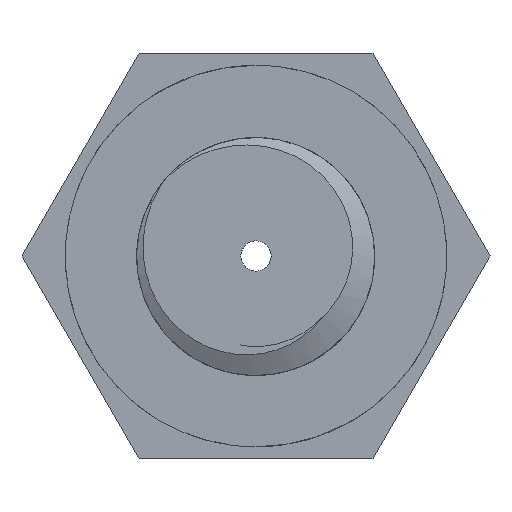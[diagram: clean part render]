
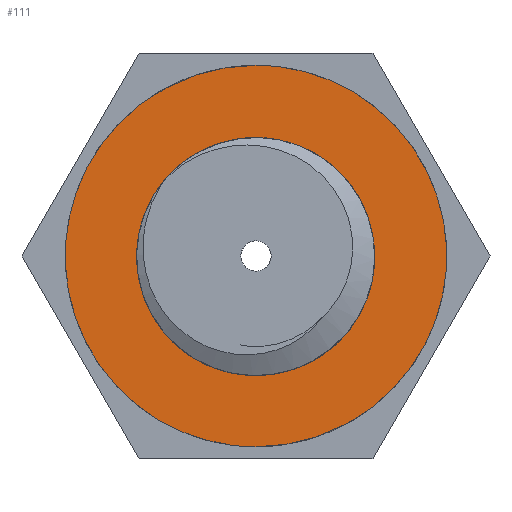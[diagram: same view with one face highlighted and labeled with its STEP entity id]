
A CAD part, front view. The second image highlights one B-rep face of the part: STEP entity #111.
In plain terms, the highlighted free-form (B-spline) face has degree [1, 1] with [2, 2] control points.
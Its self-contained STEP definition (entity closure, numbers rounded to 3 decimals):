
#111=ADVANCED_FACE('',(#161,#153),#591,.T.);
#153=FACE_BOUND('',#205,.T.);
#161=FACE_OUTER_BOUND('',#204,.T.);
#204=EDGE_LOOP('',(#255,#256));
#205=EDGE_LOOP('',(#257,#258));
#255=ORIENTED_EDGE('',*,*,#429,.T.);
#256=ORIENTED_EDGE('',*,*,#488,.T.);
#257=ORIENTED_EDGE('',*,*,#436,.T.);
#258=ORIENTED_EDGE('',*,*,#437,.T.);
#429=EDGE_CURVE('',#516,#550,#3464,.T.);
#436=EDGE_CURVE('',#519,#520,#616,.T.);
#437=EDGE_CURVE('',#520,#519,#617,.T.);
#488=EDGE_CURVE('',#550,#516,#3478,.T.);
#516=VERTEX_POINT('',#3404);
#519=VERTEX_POINT('',#3407);
#520=VERTEX_POINT('',#3408);
#550=VERTEX_POINT('',#3438);
#591=B_SPLINE_SURFACE_WITH_KNOTS('',1,1,((#1607,#1608),(#1609,#1610)),.UNSPECIFIED.,
.F.,.F.,.F.,(2,2),(2,2),(-9.,9.),(0.,18.),.UNSPECIFIED.);
#616=B_SPLINE_CURVE_WITH_KNOTS('',3,(#1014,#1015,#1016,#1017,#1018,#1019,
#1020,#1021,#1022,#1023,#1024,#1025,#1026,#1027,#1028,#1029,#1030,#1031),
.UNSPECIFIED.,.F.,.F.,(4,2,2,2,2,2,2,2,4),(0.,1.722,3.445,
5.167,6.89,8.612,10.335,12.057,
13.78),.UNSPECIFIED.);
#617=B_SPLINE_CURVE_WITH_KNOTS('',3,(#1032,#1033,#1034,#1035,#1036,#1037,
#1038,#1039,#1040,#1041,#1042,#1043,#1044,#1045,#1046,#1047,#1048,#1049),
.UNSPECIFIED.,.F.,.F.,(4,2,2,2,2,2,2,2,4),(13.78,15.502,
17.225,18.947,20.67,22.392,24.115,
25.837,27.56),.UNSPECIFIED.);
#693=CARTESIAN_POINT('',(0.,0.,-8.));
#694=CARTESIAN_POINT('',(8.,0.,-8.));
#695=CARTESIAN_POINT('',(8.,0.,0.));
#696=CARTESIAN_POINT('',(8.,0.,8.));
#697=CARTESIAN_POINT('',(0.,0.,8.));
#1014=CARTESIAN_POINT('',(2.965,0.,-2.337));
#1015=CARTESIAN_POINT('',(2.688,0.,-2.772));
#1016=CARTESIAN_POINT('',(2.334,0.,-3.147));
#1017=CARTESIAN_POINT('',(1.488,0.,-3.739));
#1018=CARTESIAN_POINT('',(0.998,0.,-3.956));
#1019=CARTESIAN_POINT('',(-0.05,0.,-4.184));
#1020=CARTESIAN_POINT('',(-0.606,0.,-4.196));
#1021=CARTESIAN_POINT('',(-1.699,0.,-3.996));
#1022=CARTESIAN_POINT('',(-2.236,0.,-3.784));
#1023=CARTESIAN_POINT('',(-3.201,0.,-3.157));
#1024=CARTESIAN_POINT('',(-3.629,0.,-2.741));
#1025=CARTESIAN_POINT('',(-4.301,0.,-1.757));
#1026=CARTESIAN_POINT('',(-4.543,0.,-1.19));
#1027=CARTESIAN_POINT('',(-4.793,0.,0.015));
#1028=CARTESIAN_POINT('',(-4.799,0.,0.652));
#1029=CARTESIAN_POINT('',(-4.557,0.,1.899));
#1030=CARTESIAN_POINT('',(-4.31,0.,2.508));
#1031=CARTESIAN_POINT('',(-3.948,0.,3.054));
#1032=CARTESIAN_POINT('',(-3.948,0.,3.054));
#1033=CARTESIAN_POINT('',(-3.506,0.,3.537));
#1034=CARTESIAN_POINT('',(-2.974,0.,3.925));
#1035=CARTESIAN_POINT('',(-1.822,0.,4.46));
#1036=CARTESIAN_POINT('',(-1.203,0.,4.608));
#1037=CARTESIAN_POINT('',(0.027,0.,4.657));
#1038=CARTESIAN_POINT('',(0.636,0.,4.558));
#1039=CARTESIAN_POINT('',(1.753,0.,4.144));
#1040=CARTESIAN_POINT('',(2.26,0.,3.829));
#1041=CARTESIAN_POINT('',(3.102,0.,3.044));
#1042=CARTESIAN_POINT('',(3.436,0.,2.575));
#1043=CARTESIAN_POINT('',(3.895,0.,1.562));
#1044=CARTESIAN_POINT('',(4.018,0.,1.019));
#1045=CARTESIAN_POINT('',(4.049,0.,-0.052));
#1046=CARTESIAN_POINT('',(3.957,0.,-0.58));
#1047=CARTESIAN_POINT('',(3.587,0.,-1.544));
#1048=CARTESIAN_POINT('',(3.309,0.,-1.979));
#1049=CARTESIAN_POINT('',(2.965,0.,-2.337));
#1418=CARTESIAN_POINT('',(0.,0.,8.));
#1419=CARTESIAN_POINT('',(-8.,0.,8.));
#1420=CARTESIAN_POINT('',(-8.,0.,0.));
#1421=CARTESIAN_POINT('',(-8.,0.,-8.));
#1422=CARTESIAN_POINT('',(0.,0.,-8.));
#1607=CARTESIAN_POINT('',(-8.,0.,-8.));
#1608=CARTESIAN_POINT('',(-8.,0.,8.));
#1609=CARTESIAN_POINT('',(8.,0.,-8.));
#1610=CARTESIAN_POINT('',(8.,0.,8.));
#3404=CARTESIAN_POINT('',(0.,0.,-8.));
#3407=CARTESIAN_POINT('',(2.965,0.,-2.337));
#3408=CARTESIAN_POINT('',(-3.948,0.,3.054));
#3438=CARTESIAN_POINT('',(0.,0.,8.));
#3464=(
BOUNDED_CURVE()
B_SPLINE_CURVE(2,(#693,#694,#695,#696,#697),.UNSPECIFIED.,.F.,.F.)
B_SPLINE_CURVE_WITH_KNOTS((3,2,3),(0.,14.137,28.274),
.UNSPECIFIED.)
CURVE()
GEOMETRIC_REPRESENTATION_ITEM()
RATIONAL_B_SPLINE_CURVE((1.,0.707,1.,0.707,1.))
REPRESENTATION_ITEM('')
);
#3478=(
BOUNDED_CURVE()
B_SPLINE_CURVE(2,(#1418,#1419,#1420,#1421,#1422),.UNSPECIFIED.,.F.,.F.)
B_SPLINE_CURVE_WITH_KNOTS((3,2,3),(28.274,42.412,56.549),
.UNSPECIFIED.)
CURVE()
GEOMETRIC_REPRESENTATION_ITEM()
RATIONAL_B_SPLINE_CURVE((1.,0.707,1.,0.707,1.))
REPRESENTATION_ITEM('')
);
